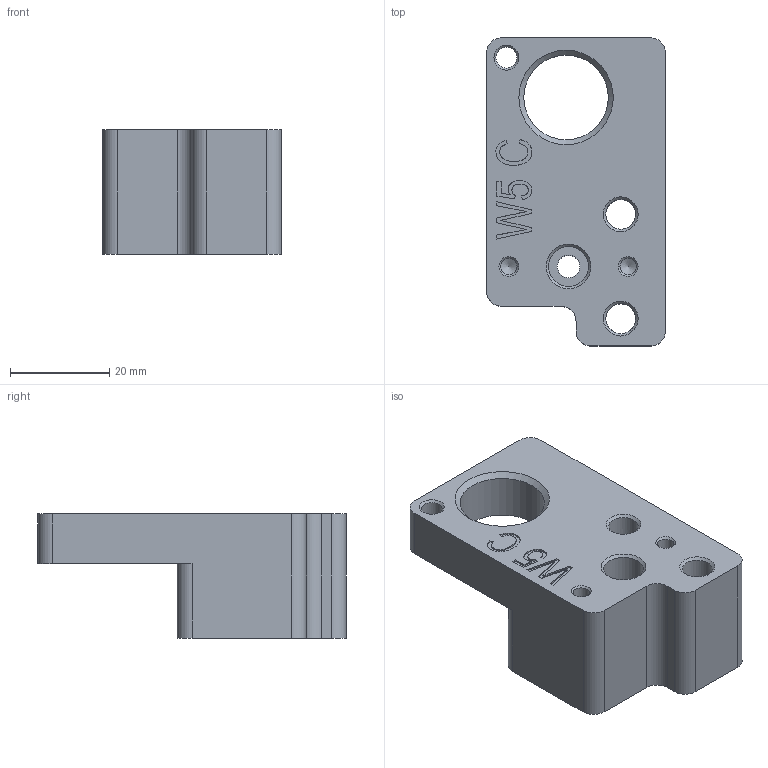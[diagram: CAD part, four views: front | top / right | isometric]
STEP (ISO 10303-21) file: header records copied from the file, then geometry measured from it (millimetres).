
FILE_DESCRIPTION(/* description */ (''),/* implementation_level */ '2;1');
FILE_NAME(/* name */ 'WHEELS-INSERT.11.stp',/* time_stamp */ '2018-10-12T17:11:10+02:00',/* author */ (''),/* organization */ (''),/* preprocessor_version */ 'ST-DEVELOPER v16.7',/* originating_system */ 'SIEMENS PLM Software NX 12.0',/* authorisation */ '');
FILE_SCHEMA (('AP203_CONFIGURATION_CONTROLLED_3D_DESIGN_OF_MECHANICAL_PARTS_AND_ASSEMBLIES_MIM_LF { 1 0 10303 403 2 1 2}'));
Length unit declared in the file: millimetre
Products named in the file (1): turc1934B35Eh6ag
Bounding box: 36 x 62 x 25 mm (x, y, z)
Volume: 31921 mm3; surface area: 9853.1 mm2
Topology: 1 solids, 1 shells, 77 faces, 223 edges, 149 vertices
Faces by surface type: plane 30, cylinder 20, cone 17, extrusion 10
Full cylindrical faces by diameter (mm): 3.3 x2, 4.2 x5, 4.5 x1, 6 x2, 8 x1, 17 x1
Entity records: 2915 total; most frequent: CARTESIAN_POINT 1037, ORIENTED_EDGE 328, DIRECTION 323, EDGE_CURVE 164, AXIS2_PLACEMENT_3D 127, VERTEX_POINT 125, EDGE_LOOP 123, FACE_BOUND 84
